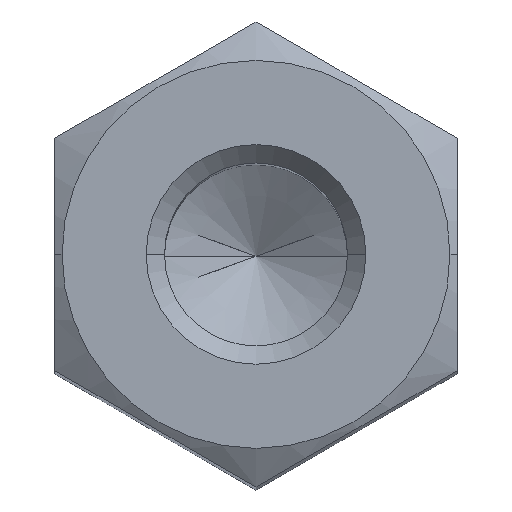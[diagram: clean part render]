
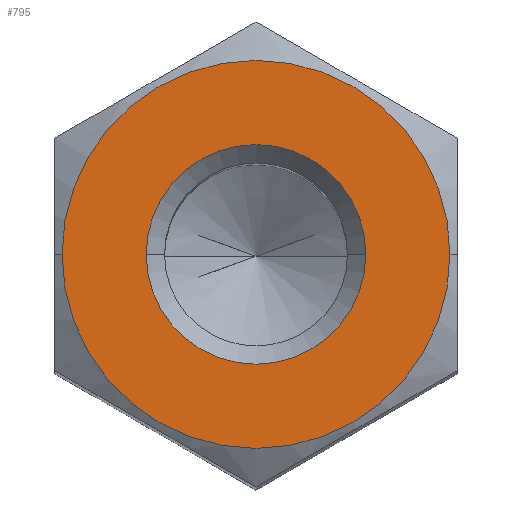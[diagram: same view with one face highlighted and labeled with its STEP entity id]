
A CAD part, top view. The second image highlights one B-rep face of the part: STEP entity #795.
In plain terms, the highlighted planar face has unit normal (0, 0, 1).
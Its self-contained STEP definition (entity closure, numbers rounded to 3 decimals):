
#4 = CARTESIAN_POINT ( 'NONE',  ( 0., 0., 0. ) ) ;
#15 = DIRECTION ( 'NONE',  ( 1., 0., 0. ) ) ;
#16 = CIRCLE ( 'NONE', #706, 2.65 ) ;
#19 = EDGE_LOOP ( 'NONE', ( #532, #454 ) ) ;
#25 = VERTEX_POINT ( 'NONE', #95 ) ;
#55 = FACE_OUTER_BOUND ( 'NONE', #129, .T. ) ;
#73 = DIRECTION ( 'NONE',  ( 1., 0., 0. ) ) ;
#74 = CARTESIAN_POINT ( 'NONE',  ( 1.5, 0., 0. ) ) ;
#84 = ORIENTED_EDGE ( 'NONE', *, *, #586, .T. ) ;
#90 = EDGE_CURVE ( 'NONE', #335, #395, #790, .T. ) ;
#95 = CARTESIAN_POINT ( 'NONE',  ( -2.65, 0., 0. ) ) ;
#114 = CARTESIAN_POINT ( 'NONE',  ( 2.65, 0., 0. ) ) ;
#117 = AXIS2_PLACEMENT_3D ( 'NONE', #483, #293, #533 ) ;
#120 = PLANE ( 'NONE',  #780 ) ;
#129 = EDGE_LOOP ( 'NONE', ( #152, #84 ) ) ;
#136 = DIRECTION ( 'NONE',  ( 0., 0., -1. ) ) ;
#152 = ORIENTED_EDGE ( 'NONE', *, *, #249, .T. ) ;
#171 = CARTESIAN_POINT ( 'NONE',  ( 0., 0., 0. ) ) ;
#206 = CARTESIAN_POINT ( 'NONE',  ( 0., 0., 0. ) ) ;
#212 = AXIS2_PLACEMENT_3D ( 'NONE', #206, #572, #15 ) ;
#249 = EDGE_CURVE ( 'NONE', #25, #265, #16, .T. ) ;
#265 = VERTEX_POINT ( 'NONE', #114 ) ;
#293 = DIRECTION ( 'NONE',  ( 0., 0., -1. ) ) ;
#314 = CIRCLE ( 'NONE', #212, 2.65 ) ;
#316 = CARTESIAN_POINT ( 'NONE',  ( 0., 0., 0. ) ) ;
#328 = CARTESIAN_POINT ( 'NONE',  ( -1.5, 0., 0. ) ) ;
#335 = VERTEX_POINT ( 'NONE', #328 ) ;
#351 = CIRCLE ( 'NONE', #804, 1.5 ) ;
#395 = VERTEX_POINT ( 'NONE', #74 ) ;
#438 = DIRECTION ( 'NONE',  ( 0., 0., 1. ) ) ;
#454 = ORIENTED_EDGE ( 'NONE', *, *, #90, .T. ) ;
#483 = CARTESIAN_POINT ( 'NONE',  ( 0., 0., 0. ) ) ;
#500 = FACE_BOUND ( 'NONE', #19, .T. ) ;
#532 = ORIENTED_EDGE ( 'NONE', *, *, #564, .T. ) ;
#533 = DIRECTION ( 'NONE',  ( 1., 0., 0. ) ) ;
#556 = DIRECTION ( 'NONE',  ( 1., 0., 0. ) ) ;
#564 = EDGE_CURVE ( 'NONE', #395, #335, #351, .T. ) ;
#572 = DIRECTION ( 'NONE',  ( 0., 0., 1. ) ) ;
#586 = EDGE_CURVE ( 'NONE', #265, #25, #314, .T. ) ;
#611 = DIRECTION ( 'NONE',  ( 0., 0., 1. ) ) ;
#675 = DIRECTION ( 'NONE',  ( 1., 0., 0. ) ) ;
#706 = AXIS2_PLACEMENT_3D ( 'NONE', #171, #611, #675 ) ;
#780 = AXIS2_PLACEMENT_3D ( 'NONE', #316, #438, #556 ) ;
#790 = CIRCLE ( 'NONE', #117, 1.5 ) ;
#795 = ADVANCED_FACE ( 'NONE', ( #500, #55 ), #120, .T. ) ;
#804 = AXIS2_PLACEMENT_3D ( 'NONE', #4, #136, #73 ) ;
